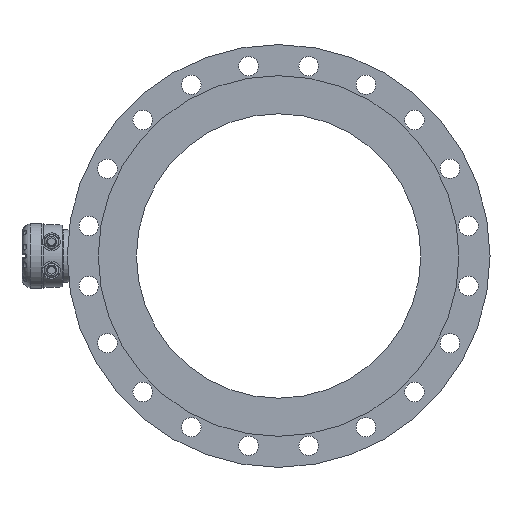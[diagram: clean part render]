
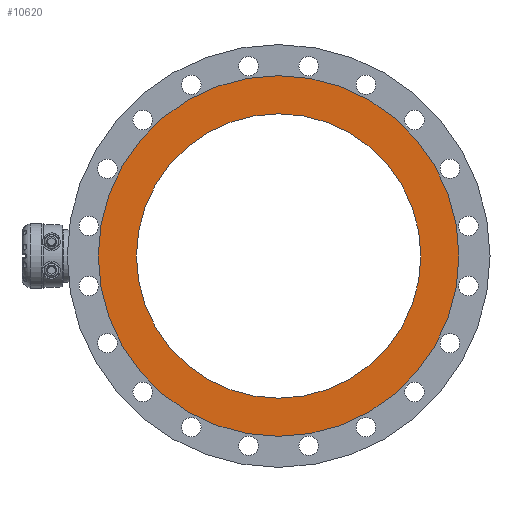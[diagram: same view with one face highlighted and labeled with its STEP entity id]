
A CAD part, left-side view. The second image highlights one B-rep face of the part: STEP entity #10620.
In plain terms, the highlighted planar face has unit normal (-1, 0, 0).
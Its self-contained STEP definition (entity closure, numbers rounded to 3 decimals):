
#583 = FACE_OUTER_BOUND ( 'NONE', #13620, .T. ) ;
#584 = FACE_BOUND ( 'NONE', #13506, .T. ) ;
#3221 = PLANE ( 'NONE',  #6194 ) ;
#3228 = CARTESIAN_POINT ( 'NONE',  ( -294.805, -94.017, -10.543 ) ) ;
#3242 = DIRECTION ( 'NONE',  ( -1., 0., 0. ) ) ;
#3244 = DIRECTION ( 'NONE',  ( 0., 0., 1. ) ) ;
#5698 = EDGE_CURVE ( 'NONE', #11581, #11581, #14371, .T. ) ;
#5730 = EDGE_CURVE ( 'NONE', #11617, #11617, #14415, .T. ) ;
#5885 = AXIS2_PLACEMENT_3D ( 'NONE', #7923, #7925, #7926 ) ;
#5905 = AXIS2_PLACEMENT_3D ( 'NONE', #8000, #8009, #8010 ) ;
#6194 = AXIS2_PLACEMENT_3D ( 'NONE', #3228, #3242, #3244 ) ;
#7923 = CARTESIAN_POINT ( 'NONE',  ( -294.805, -334.517, -10.543 ) ) ;
#7925 = DIRECTION ( 'NONE',  ( -1., 0., 0. ) ) ;
#7926 = DIRECTION ( 'NONE',  ( 0., 0., 1. ) ) ;
#8000 = CARTESIAN_POINT ( 'NONE',  ( -294.805, -334.517, -10.543 ) ) ;
#8009 = DIRECTION ( 'NONE',  ( 1., 0., 0. ) ) ;
#8010 = DIRECTION ( 'NONE',  ( 0., 0., -1. ) ) ;
#10620 = ADVANCED_FACE ( 'NONE', ( #584, #583 ), #3221, .T. ) ;
#11581 = VERTEX_POINT ( 'NONE', #11582 ) ;
#11582 = CARTESIAN_POINT ( 'NONE',  ( -294.805, -334.517, 294.457 ) ) ;
#11617 = VERTEX_POINT ( 'NONE', #11618 ) ;
#11618 = CARTESIAN_POINT ( 'NONE',  ( -294.805, -334.517, -251.043 ) ) ;
#13366 = ORIENTED_EDGE ( 'NONE', *, *, #5730, .T. ) ;
#13367 = ORIENTED_EDGE ( 'NONE', *, *, #5698, .T. ) ;
#13506 = EDGE_LOOP ( 'NONE', ( #13366 ) ) ;
#13620 = EDGE_LOOP ( 'NONE', ( #13367 ) ) ;
#14371 = CIRCLE ( 'NONE', #5885, 305. ) ;
#14415 = CIRCLE ( 'NONE', #5905, 240.5 ) ;
